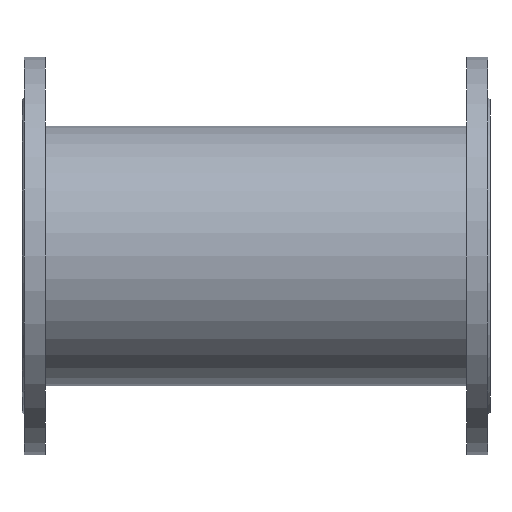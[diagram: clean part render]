
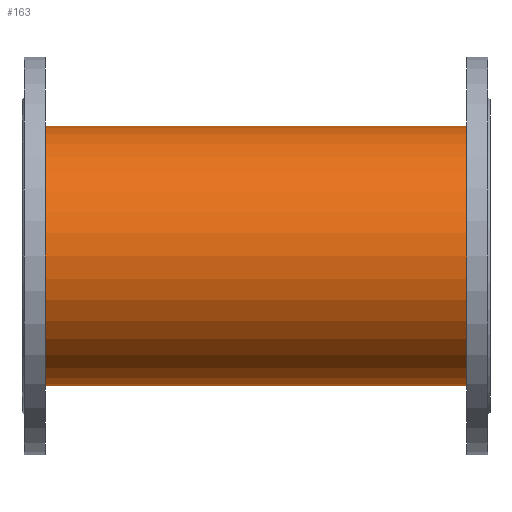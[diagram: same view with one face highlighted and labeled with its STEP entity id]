
A CAD part, front view. The second image highlights one B-rep face of the part: STEP entity #163.
In plain terms, the highlighted cylindrical face has radius 111 mm (diameter 222 mm), a partial arc.
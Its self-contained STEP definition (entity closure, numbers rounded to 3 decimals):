
#163=ADVANCED_FACE('',(#353),#354,.T.);
#353=FACE_OUTER_BOUND('',#616,.T.);
#354=CYLINDRICAL_SURFACE('',#617,111.0);
#616=EDGE_LOOP('',(#940,#941,#942,#943));
#617=AXIS2_PLACEMENT_3D('',#944,#945,#946);
#940=ORIENTED_EDGE('',*,*,#1414,.T.);
#941=ORIENTED_EDGE('',*,*,#1439,.T.);
#942=ORIENTED_EDGE('',*,*,#1416,.T.);
#943=ORIENTED_EDGE('',*,*,#1441,.T.);
#944=CARTESIAN_POINT('',(10.0,0.0,0.));
#945=DIRECTION('',(1.0,0.0,0.));
#946=DIRECTION('',(0.,0.0,-1.0));
#1414=EDGE_CURVE('',#1683,#1684,#1685,.T.);
#1416=EDGE_CURVE('',#1688,#1686,#1689,.T.);
#1439=EDGE_CURVE('',#1684,#1688,#1722,.T.);
#1441=EDGE_CURVE('',#1686,#1683,#1724,.T.);
#1683=VERTEX_POINT('',#2026);
#1684=VERTEX_POINT('',#2027);
#1685=LINE('',#2028,#2029);
#1686=VERTEX_POINT('',#2030);
#1688=VERTEX_POINT('',#2032);
#1689=LINE('',#2033,#2034);
#1722=CIRCLE('',#2071,111.0);
#1724=CIRCLE('',#2073,111.0);
#2026=CARTESIAN_POINT('',(10.0,0.0,-111.0));
#2027=CARTESIAN_POINT('',(390.0,0.0,-111.0));
#2028=CARTESIAN_POINT('',(10.0,0.,-111.0));
#2029=VECTOR('',#2401,1.0);
#2030=CARTESIAN_POINT('',(10.,0.,111.0));
#2032=CARTESIAN_POINT('',(390.0,0.,111.0));
#2033=CARTESIAN_POINT('',(10.,0.,111.0));
#2034=VECTOR('',#2405,1.0);
#2071=AXIS2_PLACEMENT_3D('',#2446,#2447,#2448);
#2073=AXIS2_PLACEMENT_3D('',#2449,#2450,#2451);
#2401=DIRECTION('',(1.0,0.0,0.));
#2405=DIRECTION('',(-1.0,-0.0,0.));
#2446=CARTESIAN_POINT('',(390.0,0.0,0.));
#2447=DIRECTION('',(-1.0,-0.0,0.));
#2448=DIRECTION('',(0.,0.0,-1.0));
#2449=CARTESIAN_POINT('',(10.0,0.0,0.));
#2450=DIRECTION('',(1.0,0.0,0.));
#2451=DIRECTION('',(0.,0.0,-1.0));
